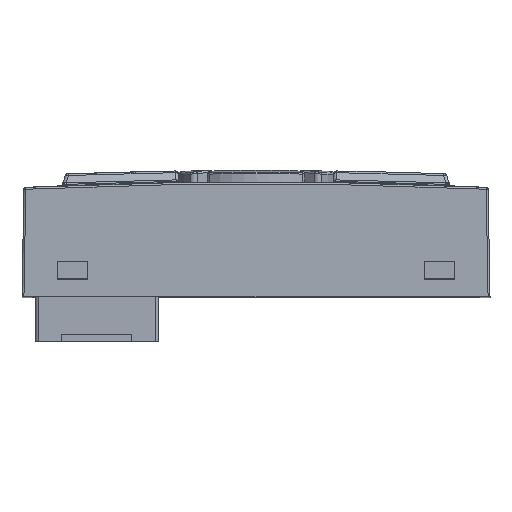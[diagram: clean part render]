
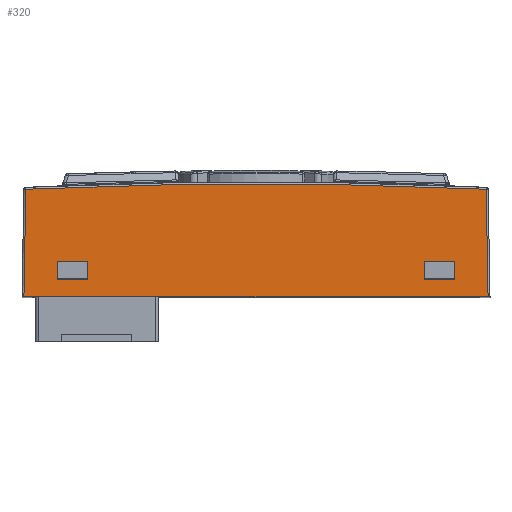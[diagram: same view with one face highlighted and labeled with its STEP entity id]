
A CAD part, top view. The second image highlights one B-rep face of the part: STEP entity #320.
In plain terms, the highlighted planar face has unit normal (0, 0.009, 1).
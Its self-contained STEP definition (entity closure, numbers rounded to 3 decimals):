
#320=ADVANCED_FACE('',(#15101,#15103,#15105),#15107,.T.);
#15101=FACE_BOUND('',#15102,.T.);
#15102=EDGE_LOOP('',(#35627,#35628,#35629,#35630));
#15103=FACE_BOUND('',#15104,.T.);
#15104=EDGE_LOOP('',(#35631,#35632,#35633,#35634));
#15105=FACE_BOUND('',#15106,.T.);
#15106=EDGE_LOOP('',(#35635,#35636,#35637,#35638));
#15107=PLANE('',#15108);
#15108=AXIS2_PLACEMENT_3D('',#15109,#15110,#15111);
#15109=CARTESIAN_POINT('',(-39.757,119.2,19.387));
#15110=DIRECTION('',(0.,0.009,1.));
#15111=DIRECTION('',(-1.,0.,0.));
#35627=ORIENTED_EDGE('',*,*,#44280,.F.);
#35628=ORIENTED_EDGE('',*,*,#44211,.T.);
#35629=ORIENTED_EDGE('',*,*,#44273,.F.);
#35630=ORIENTED_EDGE('',*,*,#44279,.F.);
#35631=ORIENTED_EDGE('',*,*,#44281,.T.);
#35632=ORIENTED_EDGE('',*,*,#44282,.T.);
#35633=ORIENTED_EDGE('',*,*,#44283,.T.);
#35634=ORIENTED_EDGE('',*,*,#44284,.T.);
#35635=ORIENTED_EDGE('',*,*,#44285,.T.);
#35636=ORIENTED_EDGE('',*,*,#44286,.T.);
#35637=ORIENTED_EDGE('',*,*,#44287,.T.);
#35638=ORIENTED_EDGE('',*,*,#44288,.T.);
#44211=EDGE_CURVE('',#48527,#48525,#48528,.T.);
#44273=EDGE_CURVE('',#48647,#48525,#48648,.T.);
#44279=EDGE_CURVE('',#48655,#48647,#48657,.T.);
#44280=EDGE_CURVE('',#48527,#48655,#48658,.T.);
#44281=EDGE_CURVE('',#48659,#48660,#48661,.T.);
#44282=EDGE_CURVE('',#48660,#48662,#48663,.T.);
#44283=EDGE_CURVE('',#48662,#48664,#48665,.T.);
#44284=EDGE_CURVE('',#48664,#48659,#48666,.T.);
#44285=EDGE_CURVE('',#48667,#48668,#48669,.T.);
#44286=EDGE_CURVE('',#48668,#48670,#48671,.T.);
#44287=EDGE_CURVE('',#48670,#48672,#48673,.T.);
#44288=EDGE_CURVE('',#48672,#48667,#48674,.T.);
#48525=VERTEX_POINT('',#55894);
#48527=VERTEX_POINT('',#55899);
#48528=LINE('',#55900,#55901);
#48647=VERTEX_POINT('',#56389);
#48648=LINE('',#56390,#56391);
#48655=VERTEX_POINT('',#56411);
#48657=CIRCLE('',#56416,753.402);
#48658=LINE('',#56420,#56421);
#48659=VERTEX_POINT('',#56423);
#48660=VERTEX_POINT('',#56424);
#48661=LINE('',#56425,#56426);
#48662=VERTEX_POINT('',#56428);
#48663=LINE('',#56429,#56430);
#48664=VERTEX_POINT('',#56432);
#48665=LINE('',#56433,#56434);
#48666=LINE('',#56436,#56437);
#48667=VERTEX_POINT('',#56439);
#48668=VERTEX_POINT('',#56440);
#48669=LINE('',#56441,#56442);
#48670=VERTEX_POINT('',#56444);
#48671=LINE('',#56445,#56446);
#48672=VERTEX_POINT('',#56448);
#48673=LINE('',#56449,#56450);
#48674=LINE('',#56452,#56453);
#55894=CARTESIAN_POINT('',(35.996,119.2,19.387));
#55899=CARTESIAN_POINT('',(-35.996,119.2,19.387));
#55900=CARTESIAN_POINT('',(-35.996,119.2,19.387));
#55901=VECTOR('',#55902,1.);
#55902=DIRECTION('',(1.,0.,0.));
#56389=CARTESIAN_POINT('',(35.705,135.856,19.242));
#56390=CARTESIAN_POINT('',(35.705,135.856,19.242));
#56391=VECTOR('',#56392,1.);
#56392=DIRECTION('',(0.017,-1.,0.009));
#56411=CARTESIAN_POINT('',(-35.705,135.856,19.242));
#56416=AXIS2_PLACEMENT_3D('',#56417,#56418,#56419);
#56417=CARTESIAN_POINT('',(0.,-616.67,25.809));
#56418=DIRECTION('',(0.,-0.009,-1.));
#56419=DIRECTION('',(-0.047,0.999,-0.009));
#56420=CARTESIAN_POINT('',(-35.996,119.2,19.387));
#56421=VECTOR('',#56422,1.);
#56422=DIRECTION('',(0.017,1.,-0.009));
#56423=CARTESIAN_POINT('',(30.85,121.9,19.364));
#56424=CARTESIAN_POINT('',(26.15,121.9,19.364));
#56425=CARTESIAN_POINT('',(30.85,121.9,19.364));
#56426=VECTOR('',#56427,1.);
#56427=DIRECTION('',(-1.,0.,0.));
#56428=CARTESIAN_POINT('',(26.15,124.7,19.339));
#56429=CARTESIAN_POINT('',(26.15,121.9,19.364));
#56430=VECTOR('',#56431,1.);
#56431=DIRECTION('',(0.,1.,-0.009));
#56432=CARTESIAN_POINT('',(30.85,124.7,19.339));
#56433=CARTESIAN_POINT('',(26.15,124.7,19.339));
#56434=VECTOR('',#56435,1.);
#56435=DIRECTION('',(1.,0.,0.));
#56436=CARTESIAN_POINT('',(30.85,124.7,19.339));
#56437=VECTOR('',#56438,1.);
#56438=DIRECTION('',(0.,-1.,0.009));
#56439=CARTESIAN_POINT('',(-30.85,121.9,19.364));
#56440=CARTESIAN_POINT('',(-30.85,124.7,19.339));
#56441=CARTESIAN_POINT('',(-30.85,121.9,19.364));
#56442=VECTOR('',#56443,1.);
#56443=DIRECTION('',(0.,1.,-0.009));
#56444=CARTESIAN_POINT('',(-26.15,124.7,19.339));
#56445=CARTESIAN_POINT('',(-30.85,124.7,19.339));
#56446=VECTOR('',#56447,1.);
#56447=DIRECTION('',(1.,0.,0.));
#56448=CARTESIAN_POINT('',(-26.15,121.9,19.364));
#56449=CARTESIAN_POINT('',(-26.15,124.7,19.339));
#56450=VECTOR('',#56451,1.);
#56451=DIRECTION('',(0.,-1.,0.009));
#56452=CARTESIAN_POINT('',(-26.15,121.9,19.364));
#56453=VECTOR('',#56454,1.);
#56454=DIRECTION('',(-1.,0.,0.));
